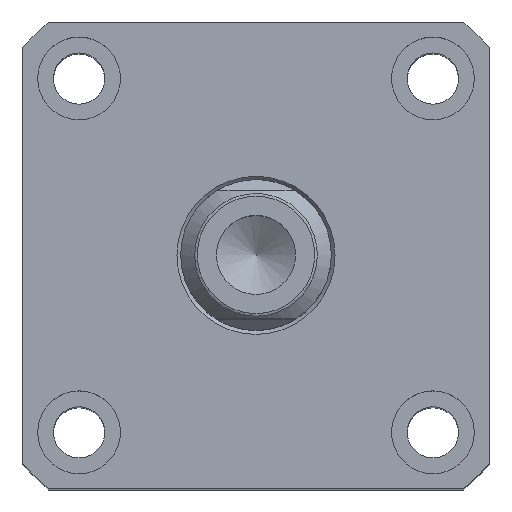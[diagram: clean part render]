
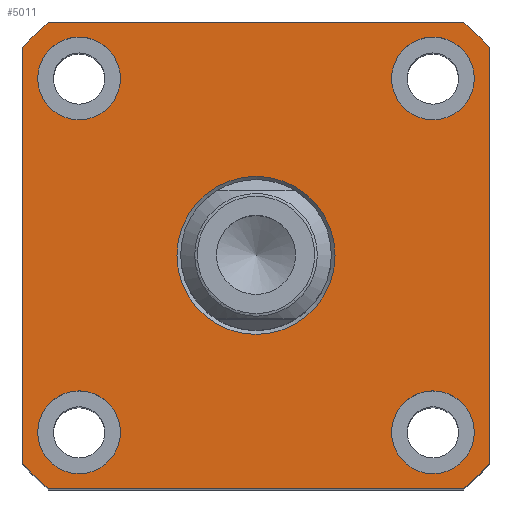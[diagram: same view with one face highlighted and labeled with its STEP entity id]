
A CAD part, top view. The second image highlights one B-rep face of the part: STEP entity #5011.
In plain terms, the highlighted planar face has unit normal (0, 0, 1).
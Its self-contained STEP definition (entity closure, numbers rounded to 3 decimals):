
#2707=PLANE('',#10542);
#3026=LINE('',#15371,#3763);
#3035=LINE('',#16030,#3772);
#3039=LINE('',#16042,#3776);
#3042=LINE('',#16054,#3779);
#3763=VECTOR('',#11039,1.);
#3772=VECTOR('',#11196,1.);
#3776=VECTOR('',#11208,1.);
#3779=VECTOR('',#11225,1.);
#5011=ADVANCED_FACE('',(#5514,#5515,#5516,#5517,#5518,#5519),#2707,.T.);
#5514=FACE_BOUND('',#5757,.T.);
#5515=FACE_BOUND('',#5758,.T.);
#5516=FACE_BOUND('',#5759,.T.);
#5517=FACE_BOUND('',#5760,.T.);
#5518=FACE_BOUND('',#5761,.T.);
#5519=FACE_BOUND('',#5762,.T.);
#5757=EDGE_LOOP('',(#6495));
#5758=EDGE_LOOP('',(#6496));
#5759=EDGE_LOOP('',(#6497));
#5760=EDGE_LOOP('',(#6498));
#5761=EDGE_LOOP('',(#6499));
#5762=EDGE_LOOP('',(#6500,#6501,#6502,#6503,#6504,#6505,#6506,#6507));
#6495=ORIENTED_EDGE('',*,*,#9269,.T.);
#6496=ORIENTED_EDGE('',*,*,#9318,.F.);
#6497=ORIENTED_EDGE('',*,*,#9320,.F.);
#6498=ORIENTED_EDGE('',*,*,#9322,.F.);
#6499=ORIENTED_EDGE('',*,*,#9324,.F.);
#6500=ORIENTED_EDGE('',*,*,#9344,.T.);
#6501=ORIENTED_EDGE('',*,*,#9348,.T.);
#6502=ORIENTED_EDGE('',*,*,#9351,.T.);
#6503=ORIENTED_EDGE('',*,*,#9354,.T.);
#6504=ORIENTED_EDGE('',*,*,#9356,.T.);
#6505=ORIENTED_EDGE('',*,*,#9253,.T.);
#6506=ORIENTED_EDGE('',*,*,#9359,.T.);
#6507=ORIENTED_EDGE('',*,*,#9361,.T.);
#8452=VERTEX_POINT('',#15370);
#8453=VERTEX_POINT('',#15372);
#8468=VERTEX_POINT('',#15532);
#8517=VERTEX_POINT('',#15958);
#8519=VERTEX_POINT('',#15963);
#8521=VERTEX_POINT('',#15968);
#8523=VERTEX_POINT('',#15973);
#8543=VERTEX_POINT('',#16021);
#8544=VERTEX_POINT('',#16023);
#8546=VERTEX_POINT('',#16029);
#8548=VERTEX_POINT('',#16035);
#8550=VERTEX_POINT('',#16041);
#8552=VERTEX_POINT('',#16050);
#9253=EDGE_CURVE('',#8453,#8452,#3026,.T.);
#9269=EDGE_CURVE('',#8468,#8468,#10299,.T.);
#9318=EDGE_CURVE('',#8517,#8517,#10308,.T.);
#9320=EDGE_CURVE('',#8519,#8519,#10310,.T.);
#9322=EDGE_CURVE('',#8521,#8521,#10312,.T.);
#9324=EDGE_CURVE('',#8523,#8523,#10314,.T.);
#9344=EDGE_CURVE('',#8544,#8543,#10333,.T.);
#9348=EDGE_CURVE('',#8543,#8546,#3035,.T.);
#9351=EDGE_CURVE('',#8546,#8548,#10335,.T.);
#9354=EDGE_CURVE('',#8548,#8550,#3039,.T.);
#9356=EDGE_CURVE('',#8550,#8453,#10337,.T.);
#9359=EDGE_CURVE('',#8452,#8552,#10339,.T.);
#9361=EDGE_CURVE('',#8552,#8544,#3042,.T.);
#10299=CIRCLE('',#10477,10.5);
#10308=CIRCLE('',#10491,5.5);
#10310=CIRCLE('',#10494,5.5);
#10312=CIRCLE('',#10497,5.5);
#10314=CIRCLE('',#10500,5.5);
#10333=CIRCLE('',#10528,41.5);
#10335=CIRCLE('',#10532,41.5);
#10337=CIRCLE('',#10536,41.5);
#10339=CIRCLE('',#10539,41.5);
#10477=AXIS2_PLACEMENT_3D('',#15531,#11083,#11084);
#10491=AXIS2_PLACEMENT_3D('',#15957,#11114,#11115);
#10494=AXIS2_PLACEMENT_3D('',#15962,#11120,#11121);
#10497=AXIS2_PLACEMENT_3D('',#15967,#11126,#11127);
#10500=AXIS2_PLACEMENT_3D('',#15972,#11132,#11133);
#10528=AXIS2_PLACEMENT_3D('',#16022,#11189,#11190);
#10532=AXIS2_PLACEMENT_3D('',#16036,#11202,#11203);
#10536=AXIS2_PLACEMENT_3D('',#16045,#11213,#11214);
#10539=AXIS2_PLACEMENT_3D('',#16051,#11220,#11221);
#10542=AXIS2_PLACEMENT_3D('',#16056,#11228,#11229);
#11039=DIRECTION('',(0.,1.,0.));
#11083=DIRECTION('',(0.,0.,-1.));
#11084=DIRECTION('',(1.,0.,0.));
#11114=DIRECTION('',(0.,0.,1.));
#11115=DIRECTION('',(1.,0.,0.));
#11120=DIRECTION('',(0.,0.,1.));
#11121=DIRECTION('',(1.,0.,0.));
#11126=DIRECTION('',(0.,0.,1.));
#11127=DIRECTION('',(1.,0.,0.));
#11132=DIRECTION('',(0.,0.,1.));
#11133=DIRECTION('',(1.,0.,0.));
#11189=DIRECTION('',(0.,0.,1.));
#11190=DIRECTION('',(1.,0.,0.));
#11196=DIRECTION('',(0.,-1.,0.));
#11202=DIRECTION('',(0.,0.,1.));
#11203=DIRECTION('',(1.,0.,0.));
#11208=DIRECTION('',(1.,0.,0.));
#11213=DIRECTION('',(0.,0.,1.));
#11214=DIRECTION('',(1.,0.,0.));
#11220=DIRECTION('',(0.,0.,1.));
#11221=DIRECTION('',(1.,0.,0.));
#11225=DIRECTION('',(-1.,0.,0.));
#11228=DIRECTION('',(0.,0.,1.));
#11229=DIRECTION('',(-1.,0.,0.));
#15370=CARTESIAN_POINT('',(31.,27.591,47.));
#15371=CARTESIAN_POINT('',(31.,27.591,47.));
#15372=CARTESIAN_POINT('',(31.,-27.591,47.));
#15531=CARTESIAN_POINT('',(0.,0.,47.));
#15532=CARTESIAN_POINT('',(10.5,0.,47.));
#15957=CARTESIAN_POINT('',(-23.5,-23.5,47.));
#15958=CARTESIAN_POINT('',(-18.,-23.5,47.));
#15962=CARTESIAN_POINT('',(-23.5,23.5,47.));
#15963=CARTESIAN_POINT('',(-18.,23.5,47.));
#15967=CARTESIAN_POINT('',(23.5,-23.5,47.));
#15968=CARTESIAN_POINT('',(29.,-23.5,47.));
#15972=CARTESIAN_POINT('',(23.5,23.5,47.));
#15973=CARTESIAN_POINT('',(29.,23.5,47.));
#16021=CARTESIAN_POINT('',(-31.,27.591,47.));
#16022=CARTESIAN_POINT('',(0.,0.,47.));
#16023=CARTESIAN_POINT('',(-27.591,31.,47.));
#16029=CARTESIAN_POINT('',(-31.,-27.591,47.));
#16030=CARTESIAN_POINT('',(-31.,27.591,47.));
#16035=CARTESIAN_POINT('',(-27.591,-31.,47.));
#16036=CARTESIAN_POINT('',(0.,0.,47.));
#16041=CARTESIAN_POINT('',(27.591,-31.,47.));
#16042=CARTESIAN_POINT('',(-27.591,-31.,47.));
#16045=CARTESIAN_POINT('',(0.,0.,47.));
#16050=CARTESIAN_POINT('',(27.591,31.,47.));
#16051=CARTESIAN_POINT('',(0.,0.,47.));
#16054=CARTESIAN_POINT('',(-27.591,31.,47.));
#16056=CARTESIAN_POINT('',(0.,0.,47.));
